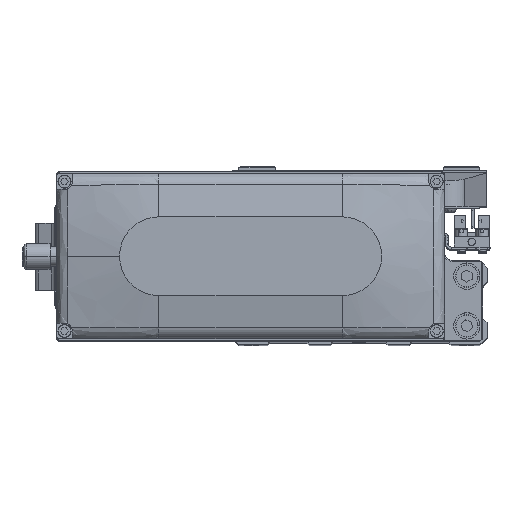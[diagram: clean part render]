
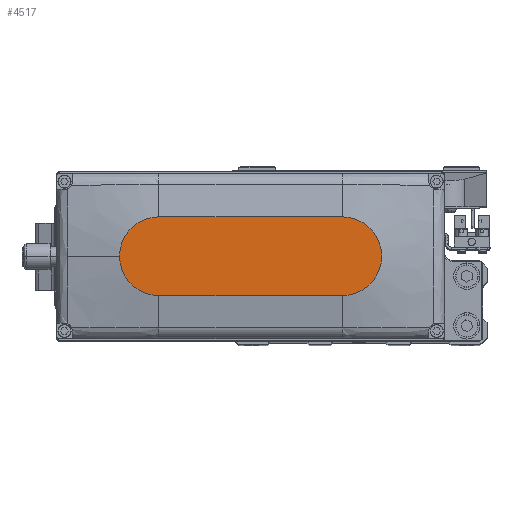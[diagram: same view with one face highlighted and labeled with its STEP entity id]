
A CAD part, top view. The second image highlights one B-rep face of the part: STEP entity #4517.
In plain terms, the highlighted planar face has unit normal (0, 0, 1).
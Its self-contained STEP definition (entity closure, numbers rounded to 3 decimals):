
#855 = EDGE_CURVE ( 'NONE', #3648, #10631, #5588, .T. ) ;
#2682 = ORIENTED_EDGE ( 'NONE', *, *, #6149, .T. ) ;
#2902 = DIRECTION ( 'NONE',  ( 1., 0., 0. ) ) ;
#3389 = DIRECTION ( 'NONE',  ( 1., 0., 0. ) ) ;
#3461 = DIRECTION ( 'NONE',  ( 0., 0., 1. ) ) ;
#3648 = VERTEX_POINT ( 'NONE', #28710 ) ;
#3668 = ORIENTED_EDGE ( 'NONE', *, *, #855, .T. ) ;
#3763 = CARTESIAN_POINT ( 'NONE',  ( 35., -15., 35. ) ) ;
#3921 = ORIENTED_EDGE ( 'NONE', *, *, #14787, .T. ) ;
#4077 = VECTOR ( 'NONE', #40193, 1000. ) ;
#4517 = ADVANCED_FACE ( 'NONE', ( #29035 ), #42499, .T. ) ;
#5588 = CIRCLE ( 'NONE', #30254, 15. ) ;
#6149 = EDGE_CURVE ( 'NONE', #21579, #25257, #7998, .T. ) ;
#7647 = CARTESIAN_POINT ( 'NONE',  ( 50., 0., 35. ) ) ;
#7835 = DIRECTION ( 'NONE',  ( 0., 0., 1. ) ) ;
#7998 = CIRCLE ( 'NONE', #32674, 15. ) ;
#9793 = VECTOR ( 'NONE', #2902, 1000. ) ;
#10631 = VERTEX_POINT ( 'NONE', #29888 ) ;
#12267 = CARTESIAN_POINT ( 'NONE',  ( 0., 0., 35. ) ) ;
#13268 = LINE ( 'NONE', #26729, #4077 ) ;
#14270 = CARTESIAN_POINT ( 'NONE',  ( 35., 15., 35. ) ) ;
#14787 = EDGE_CURVE ( 'NONE', #25257, #25247, #16354, .T. ) ;
#15517 = EDGE_CURVE ( 'NONE', #25247, #3648, #13268, .T. ) ;
#15844 = EDGE_LOOP ( 'NONE', ( #15870, #3668, #37475, #2682, #3921 ) ) ;
#15870 = ORIENTED_EDGE ( 'NONE', *, *, #15517, .T. ) ;
#16354 = CIRCLE ( 'NONE', #41004, 15. ) ;
#16937 = DIRECTION ( 'NONE',  ( 1., 0., 0. ) ) ;
#19667 = LINE ( 'NONE', #33147, #9793 ) ;
#20155 = CARTESIAN_POINT ( 'NONE',  ( 35., 0., 35. ) ) ;
#21290 = DIRECTION ( 'NONE',  ( 1., 0., 0. ) ) ;
#21579 = VERTEX_POINT ( 'NONE', #3763 ) ;
#25247 = VERTEX_POINT ( 'NONE', #14270 ) ;
#25257 = VERTEX_POINT ( 'NONE', #7647 ) ;
#25716 = DIRECTION ( 'NONE',  ( 0., 0., 1. ) ) ;
#26210 = AXIS2_PLACEMENT_3D ( 'NONE', #12267, #25716, #39184 ) ;
#26729 = CARTESIAN_POINT ( 'NONE',  ( -35., 15., 35. ) ) ;
#28710 = CARTESIAN_POINT ( 'NONE',  ( -35., 15., 35. ) ) ;
#29035 = FACE_OUTER_BOUND ( 'NONE', #15844, .T. ) ;
#29888 = CARTESIAN_POINT ( 'NONE',  ( -35., -15., 35. ) ) ;
#30254 = AXIS2_PLACEMENT_3D ( 'NONE', #33693, #3461, #16937 ) ;
#32674 = AXIS2_PLACEMENT_3D ( 'NONE', #20155, #33626, #3389 ) ;
#33147 = CARTESIAN_POINT ( 'NONE',  ( -35., -15., 35. ) ) ;
#33626 = DIRECTION ( 'NONE',  ( 0., 0., 1. ) ) ;
#33693 = CARTESIAN_POINT ( 'NONE',  ( -35., 0., 35. ) ) ;
#37475 = ORIENTED_EDGE ( 'NONE', *, *, #38354, .T. ) ;
#38063 = CARTESIAN_POINT ( 'NONE',  ( 35., 0., 35. ) ) ;
#38354 = EDGE_CURVE ( 'NONE', #10631, #21579, #19667, .T. ) ;
#39184 = DIRECTION ( 'NONE',  ( 1., 0., 0. ) ) ;
#40193 = DIRECTION ( 'NONE',  ( -1., 0., 0. ) ) ;
#41004 = AXIS2_PLACEMENT_3D ( 'NONE', #38063, #7835, #21290 ) ;
#42499 = PLANE ( 'NONE',  #26210 ) ;
